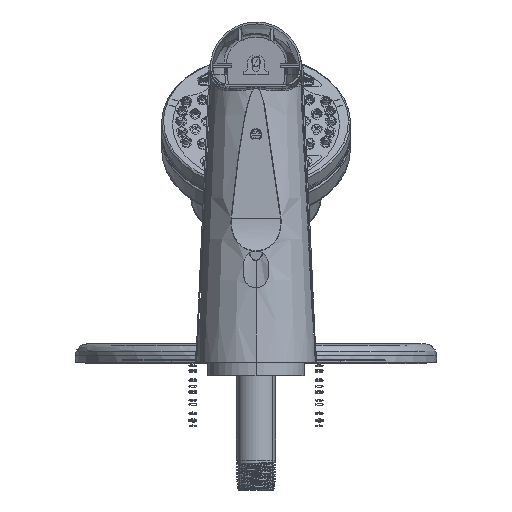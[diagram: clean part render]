
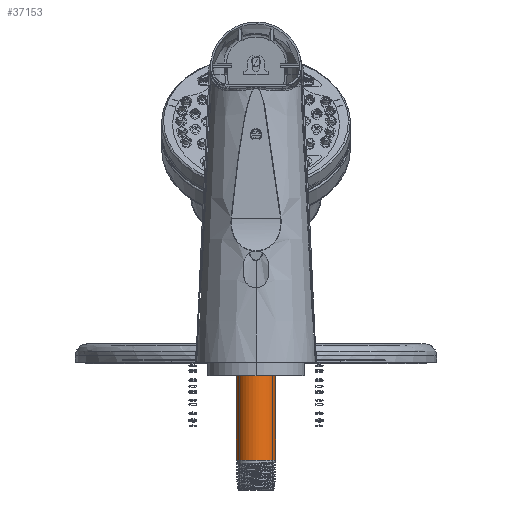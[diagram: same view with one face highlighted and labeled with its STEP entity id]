
A CAD part, front view. The second image highlights one B-rep face of the part: STEP entity #37153.
In plain terms, the highlighted cylindrical face has radius 10.325 mm (diameter 20.65 mm), a partial arc.
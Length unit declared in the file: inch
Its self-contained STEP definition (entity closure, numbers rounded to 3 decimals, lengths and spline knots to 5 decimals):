
#2698 = ORIENTED_EDGE ( 'NONE', *, *, #91402, .F. ) ;
#3728 = AXIS2_PLACEMENT_3D ( 'NONE', #85507, #14617, #31610 ) ;
#8551 = CARTESIAN_POINT ( 'NONE',  ( 1.96867, 48.73254, 5.155 ) ) ;
#10106 = CARTESIAN_POINT ( 'NONE',  ( 1.96867, 48.73254, 5.155 ) ) ;
#13114 = VERTEX_POINT ( 'NONE', #78707 ) ;
#14617 = DIRECTION ( 'NONE',  ( 0., 0., 1. ) ) ;
#15484 = VERTEX_POINT ( 'NONE', #82007 ) ;
#17067 = DIRECTION ( 'NONE',  ( 0., 0., 1. ) ) ;
#17312 = CYLINDRICAL_SURFACE ( 'NONE', #69009, 0.4065 ) ;
#18343 = DIRECTION ( 'NONE',  ( 0., 0., -1. ) ) ;
#18527 = CIRCLE ( 'NONE', #3728, 0.4065 ) ;
#25571 = FACE_OUTER_BOUND ( 'NONE', #69207, .T. ) ;
#25577 = DIRECTION ( 'NONE',  ( 1., 0., 0. ) ) ;
#31610 = DIRECTION ( 'NONE',  ( 1., 0., 0. ) ) ;
#32197 = AXIS2_PLACEMENT_3D ( 'NONE', #49657, #17067, #73494 ) ;
#32299 = DIRECTION ( 'NONE',  ( 0., 0., 1. ) ) ;
#32942 = CARTESIAN_POINT ( 'NONE',  ( 2.37517, 48.73254, 5.155 ) ) ;
#37153 = ADVANCED_FACE ( 'NONE', ( #25571 ), #17312, .T. ) ;
#43938 = DIRECTION ( 'NONE',  ( 0., 0., -1. ) ) ;
#46715 = EDGE_CURVE ( 'NONE', #13114, #98841, #82288, .T. ) ;
#49657 = CARTESIAN_POINT ( 'NONE',  ( 1.96867, 48.73254, 5.155 ) ) ;
#49894 = DIRECTION ( 'NONE',  ( -1., 0., 0. ) ) ;
#51036 = ORIENTED_EDGE ( 'NONE', *, *, #71801, .F. ) ;
#57043 = CIRCLE ( 'NONE', #32197, 0.4065 ) ;
#57959 = VERTEX_POINT ( 'NONE', #95041 ) ;
#60182 = AXIS2_PLACEMENT_3D ( 'NONE', #8551, #32299, #25577 ) ;
#62603 = VECTOR ( 'NONE', #64537, 39.37008 ) ;
#64537 = DIRECTION ( 'NONE',  ( 0., 0., -1. ) ) ;
#64869 = ORIENTED_EDGE ( 'NONE', *, *, #80990, .T. ) ;
#68020 = CARTESIAN_POINT ( 'NONE',  ( 1.56217, 48.73254, 2.795 ) ) ;
#69009 = AXIS2_PLACEMENT_3D ( 'NONE', #10106, #18343, #49894 ) ;
#69207 = EDGE_LOOP ( 'NONE', ( #2698, #89097, #51036, #89699, #64869 ) ) ;
#71801 = EDGE_CURVE ( 'NONE', #13114, #99992, #57043, .T. ) ;
#73494 = DIRECTION ( 'NONE',  ( 1., 0., 0. ) ) ;
#74396 = EDGE_CURVE ( 'NONE', #99992, #57959, #93267, .T. ) ;
#75023 = CARTESIAN_POINT ( 'NONE',  ( 1.56217, 48.73254, 5.155 ) ) ;
#77093 = CARTESIAN_POINT ( 'NONE',  ( 1.96867, 48.32604, 5.155 ) ) ;
#78707 = CARTESIAN_POINT ( 'NONE',  ( 1.56217, 48.73254, 5.155 ) ) ;
#80090 = LINE ( 'NONE', #32942, #62603 ) ;
#80990 = EDGE_CURVE ( 'NONE', #98841, #15484, #18527, .T. ) ;
#82007 = CARTESIAN_POINT ( 'NONE',  ( 2.37517, 48.73254, 2.795 ) ) ;
#82288 = LINE ( 'NONE', #75023, #97879 ) ;
#85507 = CARTESIAN_POINT ( 'NONE',  ( 1.96867, 48.73254, 2.795 ) ) ;
#89097 = ORIENTED_EDGE ( 'NONE', *, *, #74396, .F. ) ;
#89699 = ORIENTED_EDGE ( 'NONE', *, *, #46715, .T. ) ;
#91402 = EDGE_CURVE ( 'NONE', #57959, #15484, #80090, .T. ) ;
#93267 = CIRCLE ( 'NONE', #60182, 0.4065 ) ;
#95041 = CARTESIAN_POINT ( 'NONE',  ( 2.37517, 48.73254, 5.155 ) ) ;
#97879 = VECTOR ( 'NONE', #43938, 39.37008 ) ;
#98841 = VERTEX_POINT ( 'NONE', #68020 ) ;
#99992 = VERTEX_POINT ( 'NONE', #77093 ) ;
